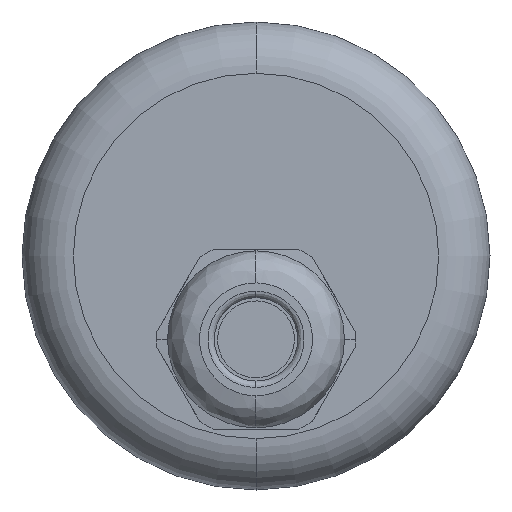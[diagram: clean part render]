
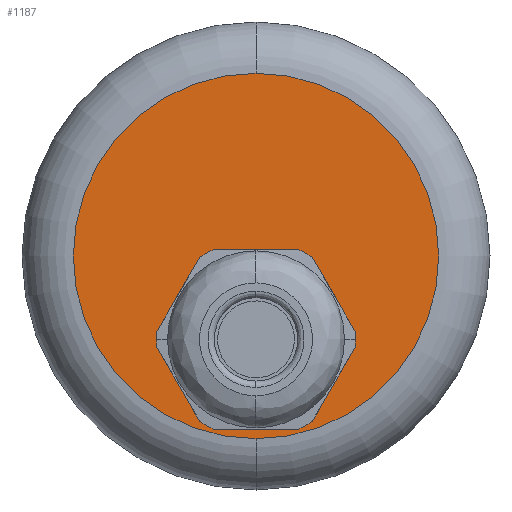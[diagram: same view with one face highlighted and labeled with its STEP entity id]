
A CAD part, front view. The second image highlights one B-rep face of the part: STEP entity #1187.
In plain terms, the highlighted planar face has unit normal (0, -1, 0).
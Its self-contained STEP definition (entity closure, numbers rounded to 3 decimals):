
#999 = EDGE_CURVE ( 'NONE', #1015, #1014, #2940, .T. ) ;
#1014 = VERTEX_POINT ( 'NONE', #3035 ) ;
#1015 = VERTEX_POINT ( 'NONE', #3054 ) ;
#1038 = EDGE_CURVE ( 'NONE', #1039, #1040, #3108, .T. ) ;
#1039 = VERTEX_POINT ( 'NONE', #3104 ) ;
#1040 = VERTEX_POINT ( 'NONE', #3103 ) ;
#1095 = EDGE_LOOP ( 'NONE', ( #1188, #1165 ) ) ;
#1165 = ORIENTED_EDGE ( 'NONE', *, *, #1166, .F. ) ;
#1166 = EDGE_CURVE ( 'NONE', #1040, #1039, #3200, .T. ) ;
#1167 = EDGE_LOOP ( 'NONE', ( #1168, #1169 ) ) ;
#1168 = ORIENTED_EDGE ( 'NONE', *, *, #999, .T. ) ;
#1169 = ORIENTED_EDGE ( 'NONE', *, *, #1170, .T. ) ;
#1170 = EDGE_CURVE ( 'NONE', #1014, #1015, #3293, .T. ) ;
#1187 = ADVANCED_FACE ( 'NONE', ( #3221, #3220 ), #3218, .T. ) ;
#1188 = ORIENTED_EDGE ( 'NONE', *, *, #1038, .F. ) ;
#2936 = DIRECTION ( 'NONE',  ( 0., 0., 1. ) ) ;
#2937 = DIRECTION ( 'NONE',  ( 0., 1., 0. ) ) ;
#2938 = CARTESIAN_POINT ( 'NONE',  ( 0., 0., -6.5 ) ) ;
#2939 = AXIS2_PLACEMENT_3D ( 'NONE', #2938, #2937, #2936 ) ;
#2940 = CIRCLE ( 'NONE', #2939, 6.05 ) ;
#3035 = CARTESIAN_POINT ( 'NONE',  ( 0., 0., -0.45 ) ) ;
#3040 = CARTESIAN_POINT ( 'NONE',  ( 0., 0., 0. ) ) ;
#3054 = CARTESIAN_POINT ( 'NONE',  ( 0., 0., -12.55 ) ) ;
#3103 = CARTESIAN_POINT ( 'NONE',  ( 0., 0., -14.25 ) ) ;
#3104 = CARTESIAN_POINT ( 'NONE',  ( 0., 0., 14.25 ) ) ;
#3105 = DIRECTION ( 'NONE',  ( 0., 0., 1. ) ) ;
#3106 = DIRECTION ( 'NONE',  ( 0., 1., 0. ) ) ;
#3107 = AXIS2_PLACEMENT_3D ( 'NONE', #3040, #3106, #3105 ) ;
#3108 = CIRCLE ( 'NONE', #3107, 14.25 ) ;
#3196 = DIRECTION ( 'NONE',  ( 0., 0., 1. ) ) ;
#3197 = DIRECTION ( 'NONE',  ( 0., 1., 0. ) ) ;
#3198 = CARTESIAN_POINT ( 'NONE',  ( 0., 0., 0. ) ) ;
#3199 = AXIS2_PLACEMENT_3D ( 'NONE', #3198, #3197, #3196 ) ;
#3200 = CIRCLE ( 'NONE', #3199, 14.25 ) ;
#3201 = CARTESIAN_POINT ( 'NONE',  ( 0., 0., -6.5 ) ) ;
#3215 = DIRECTION ( 'NONE',  ( 0., -1., 0. ) ) ;
#3216 = CARTESIAN_POINT ( 'NONE',  ( -14.25, 0., 0. ) ) ;
#3217 = AXIS2_PLACEMENT_3D ( 'NONE', #3216, #3215, #3268 ) ;
#3218 = PLANE ( 'NONE',  #3217 ) ;
#3220 = FACE_BOUND ( 'NONE', #1167, .T. ) ;
#3221 = FACE_OUTER_BOUND ( 'NONE', #1095, .T. ) ;
#3268 = DIRECTION ( 'NONE',  ( 0., 0., -1. ) ) ;
#3290 = DIRECTION ( 'NONE',  ( 0., 0., 1. ) ) ;
#3291 = DIRECTION ( 'NONE',  ( 0., 1., 0. ) ) ;
#3292 = AXIS2_PLACEMENT_3D ( 'NONE', #3201, #3291, #3290 ) ;
#3293 = CIRCLE ( 'NONE', #3292, 6.05 ) ;
